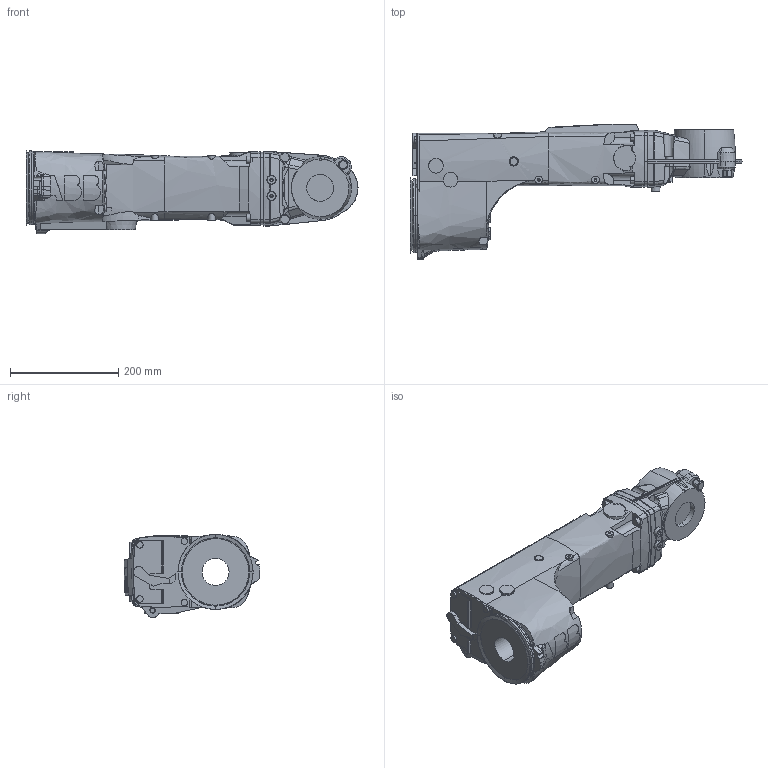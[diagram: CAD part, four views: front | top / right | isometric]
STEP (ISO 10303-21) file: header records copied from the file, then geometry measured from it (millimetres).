
FILE_DESCRIPTION (( 'STEP AP214' ), '1' );
FILE_NAME ('IRB1600ID_6-155_IRC5_rev0_LINK4.STEP', '2016-03-24T06:27:34', ( 'ABB' ), ( 'ABB' ), 'SwSTEP 2.0', 'SolidWorks 2014', '' );
FILE_SCHEMA (( 'AUTOMOTIVE_DESIGN' ));
Length unit declared in the file: millimetre
Products named in the file (1): IRB1600ID_6-155_IRC5_rev0_LINK4
Bounding box: 613.99 x 250.94 x 154.1 mm (x, y, z)
Volume: 8526855.3 mm3; surface area: 388827.6 mm2
Topology: 2 solids, 2 shells, 647 faces, 1801 edges, 1197 vertices
Faces by surface type: plane 227, cylinder 189, cone 102, bspline 99, torus 29, sphere 1
Entity records: 36487 total; most frequent: CARTESIAN_POINT 21656, ORIENTED_EDGE 3578, DIRECTION 2271, EDGE_CURVE 1789, VERTEX_POINT 1197, B_SPLINE_CURVE_WITH_KNOTS 882, AXIS2_PLACEMENT_3D 842, EDGE_LOOP 700
